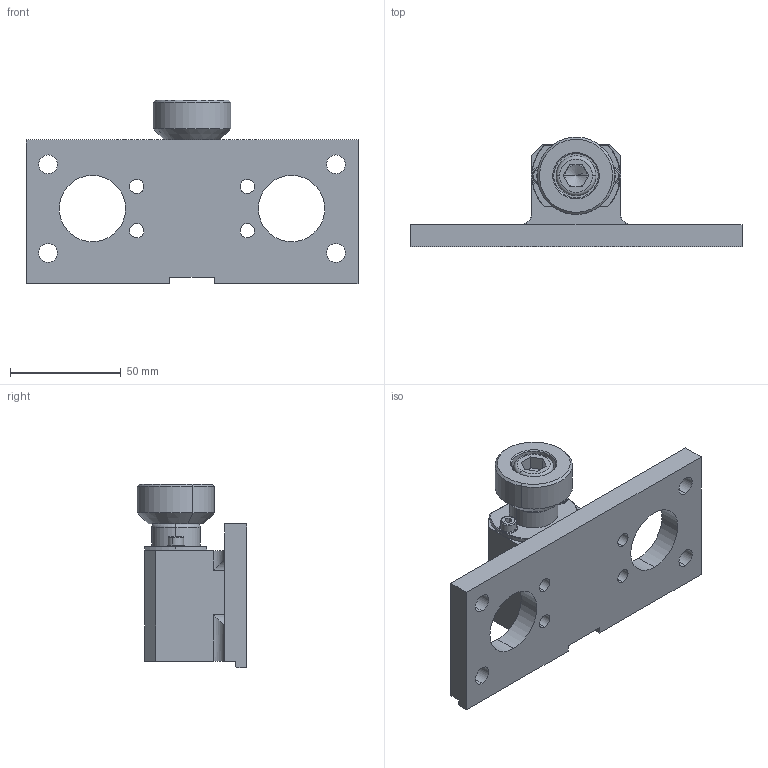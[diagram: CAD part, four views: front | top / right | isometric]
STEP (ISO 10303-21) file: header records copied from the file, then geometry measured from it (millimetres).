
FILE_DESCRIPTION (( 'STEP AP214' ), '1' );
FILE_NAME ('QCL35R-S.STEP', '2023-03-15T02:49:24', ( 'Windows User' ), ( 'P R C' ), 'SwSTEP 2.0', 'SolidWorks 2019', '' );
FILE_SCHEMA (( 'AUTOMOTIVE_DESIGN' ));
Length unit declared in the file: millimetre
Products named in the file (1): QCL35R-S
Bounding box: 150 x 49.46 x 83 mm (x, y, z)
Volume: 151086.4 mm3; surface area: 45897.6 mm2
Topology: 8 solids, 8 shells, 779 faces, 1628 edges, 870 vertices
Faces by surface type: cone 428, cylinder 259, plane 84, torus 8
Entity records: 28913 total; most frequent: DIRECTION 3957, CARTESIAN_POINT 3308, ORIENTED_EDGE 3244, EDGE_CURVE 1622, AXIS2_PLACEMENT_3D 1567, VERTEX_POINT 870, EDGE_LOOP 824, VECTOR 823
